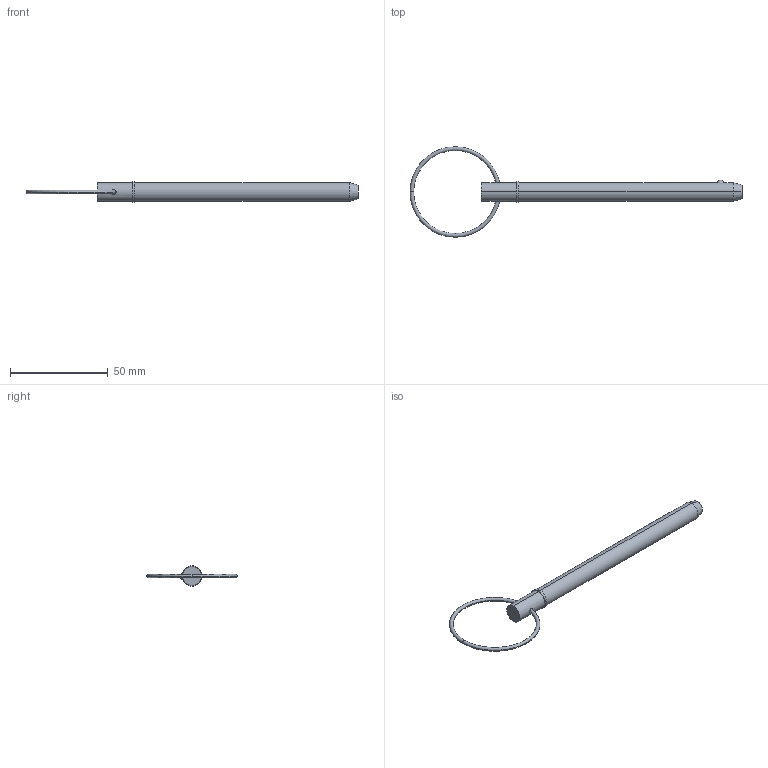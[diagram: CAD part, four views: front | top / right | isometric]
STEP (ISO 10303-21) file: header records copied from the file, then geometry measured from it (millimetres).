
FILE_DESCRIPTION (( 'STEP AP203' ), '1' );
FILE_NAME ('33014.W3740.step', '2024-11-04T08:27:06', ( '' ), ( '' ), 'SwSTEP 2.0', 'SolidWorks 2019', '' );
FILE_SCHEMA (( 'CONFIG_CONTROL_DESIGN' ));
Length unit declared in the file: millimetre
Products named in the file (3): Part1_33014.W3740; 33014.W3740; Part2_33014.W3740
Assembly tree (2 placements, depth 2):
  33014.W3740
    Part1_33014.W3740
    Part2_33014.W3740
Bounding box: 169.93 x 46.36 x 10.48 mm (x, y, z)
Volume: 9817.2 mm3; surface area: 5028.4 mm2
Topology: 2 solids, 2 shells, 22 faces, 43 edges, 26 vertices
Faces by surface type: torus 8, cylinder 6, plane 4, sphere 2, cone 2
Entity records: 1005 total; most frequent: CARTESIAN_POINT 228, DIRECTION 120, ORIENTED_EDGE 86, AXIS2_PLACEMENT_3D 56, EDGE_CURVE 43, CIRCLE 29, EDGE_LOOP 27, VERTEX_POINT 26
